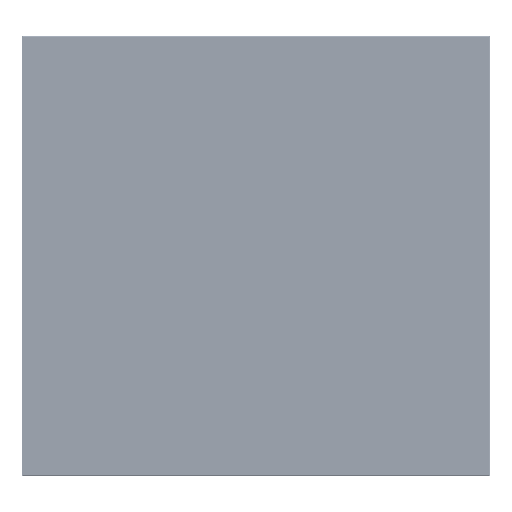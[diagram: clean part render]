
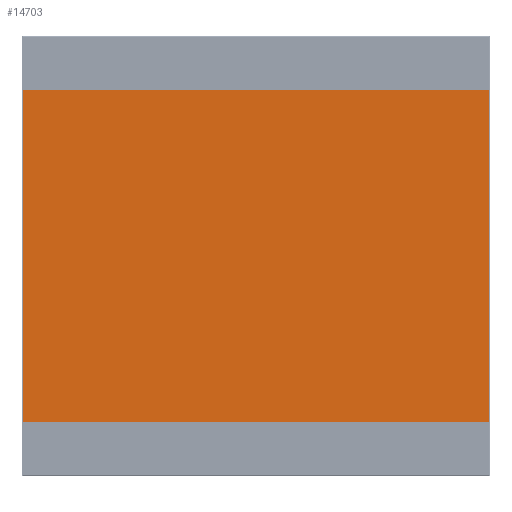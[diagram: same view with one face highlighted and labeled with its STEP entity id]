
A CAD part, left-side view. The second image highlights one B-rep face of the part: STEP entity #14703.
In plain terms, the highlighted planar face has unit normal (-1, 0, 0) as drawn and (0, 1, 0) by its records, which use the part's own axes.
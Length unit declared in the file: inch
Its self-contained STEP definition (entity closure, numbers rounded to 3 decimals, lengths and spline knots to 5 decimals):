
#14364=CARTESIAN_POINT('',(22.97,0.,29.866));
#14365=DIRECTION('',(0.,1.,0.));
#14366=DIRECTION('',(0.,0.,1.));
#14367=AXIS2_PLACEMENT_3D('',#14364,#14365,#14366);
#14372=CARTESIAN_POINT('',(-22.97,0.,29.866));
#14373=DIRECTION('',(0.,1.,0.));
#14374=DIRECTION('',(-1.,0.,0.));
#14375=AXIS2_PLACEMENT_3D('',#14372,#14373,#14374);
#14380=CARTESIAN_POINT('',(-22.97,0.,-34.65029));
#14381=DIRECTION('',(0.,1.,0.));
#14382=DIRECTION('',(0.,0.,-1.));
#14383=AXIS2_PLACEMENT_3D('',#14380,#14381,#14382);
#14388=DIRECTION('',(-1.,0.,0.));
#14389=VECTOR('',#14388,45.94);
#14390=CARTESIAN_POINT('',(22.97,0.,-34.68029));
#14391=LINE('',#14390,#14389);
#14395=CARTESIAN_POINT('',(22.97,0.,-34.65029));
#14396=DIRECTION('',(0.,1.,0.));
#14397=DIRECTION('',(1.,0.,0.));
#14398=AXIS2_PLACEMENT_3D('',#14395,#14396,#14397);
#14410=DIRECTION('',(0.,0.,-1.));
#14411=VECTOR('',#14410,64.51629);
#14412=CARTESIAN_POINT('',(23.,0.,29.866));
#14413=LINE('',#14412,#14411);
#14466=DIRECTION('',(0.,0.,1.));
#14467=VECTOR('',#14466,64.51629);
#14468=CARTESIAN_POINT('',(-23.,0.,-34.65029));
#14469=LINE('',#14468,#14467);
#14494=DIRECTION('',(-1.,0.,0.));
#14495=VECTOR('',#14494,45.94);
#14496=CARTESIAN_POINT('',(22.97,0.,29.896));
#14497=LINE('',#14496,#14495);
#14632=CARTESIAN_POINT('',(22.97,0.,29.896));
#14633=CARTESIAN_POINT('',(23.,0.,29.866));
#14634=VERTEX_POINT('',#14632);
#14635=VERTEX_POINT('',#14633);
#14640=CARTESIAN_POINT('',(-23.,0.,29.866));
#14641=CARTESIAN_POINT('',(-22.97,0.,29.896));
#14642=VERTEX_POINT('',#14640);
#14643=VERTEX_POINT('',#14641);
#14648=CARTESIAN_POINT('',(-23.,0.,-34.65029));
#14649=VERTEX_POINT('',#14648);
#14650=CARTESIAN_POINT('',(23.,0.,-34.65029));
#14651=VERTEX_POINT('',#14650);
#14656=CARTESIAN_POINT('',(-22.97,0.,-34.68029));
#14657=VERTEX_POINT('',#14656);
#14660=CARTESIAN_POINT('',(22.97,0.,-34.68029));
#14661=VERTEX_POINT('',#14660);
#14680=CARTESIAN_POINT('',(23.,0.,29.896));
#14681=DIRECTION('',(0.,1.,0.));
#14682=DIRECTION('',(-1.,0.,0.));
#14683=AXIS2_PLACEMENT_3D('',#14680,#14681,#14682);
#14684=PLANE('',#14683);
#14686=ORIENTED_EDGE('',*,*,#14685,.F.);
#14688=ORIENTED_EDGE('',*,*,#14687,.T.);
#14690=ORIENTED_EDGE('',*,*,#14689,.F.);
#14692=ORIENTED_EDGE('',*,*,#14691,.F.);
#14694=ORIENTED_EDGE('',*,*,#14693,.F.);
#14696=ORIENTED_EDGE('',*,*,#14695,.F.);
#14698=ORIENTED_EDGE('',*,*,#14697,.F.);
#14700=ORIENTED_EDGE('',*,*,#14699,.F.);
#14701=EDGE_LOOP('',(#14686,#14688,#14690,#14692,#14694,#14696,#14698,#14700));
#14702=FACE_OUTER_BOUND('',#14701,.F.);
#14368=CIRCLE('',#14367,0.03);
#14376=CIRCLE('',#14375,0.03);
#14384=CIRCLE('',#14383,0.03);
#14399=CIRCLE('',#14398,0.03);
#14685=EDGE_CURVE('',#14634,#14635,#14368,.T.);
#14687=EDGE_CURVE('',#14634,#14643,#14497,.T.);
#14689=EDGE_CURVE('',#14642,#14643,#14376,.T.);
#14691=EDGE_CURVE('',#14649,#14642,#14469,.T.);
#14693=EDGE_CURVE('',#14657,#14649,#14384,.T.);
#14695=EDGE_CURVE('',#14661,#14657,#14391,.T.);
#14697=EDGE_CURVE('',#14651,#14661,#14399,.T.);
#14699=EDGE_CURVE('',#14635,#14651,#14413,.T.);
#14703=ADVANCED_FACE('',(#14702),#14684,.T.);
